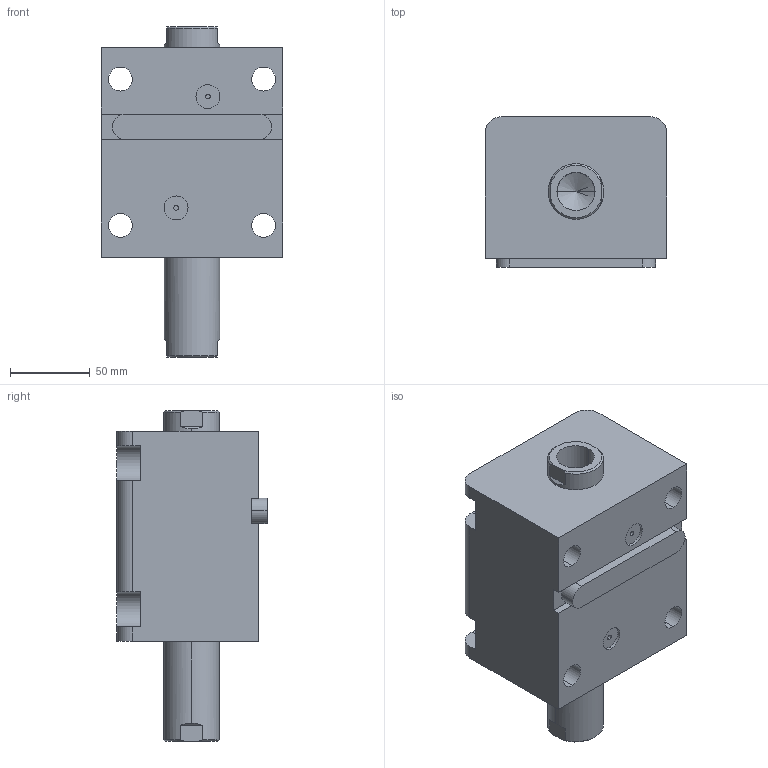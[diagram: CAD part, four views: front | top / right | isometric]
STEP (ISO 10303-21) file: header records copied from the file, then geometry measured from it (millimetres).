
FILE_DESCRIPTION (( 'STEP AP203' ), '1' );
FILE_NAME ('HTB-LWM63-50N.STEP', '2020-12-25T03:47:33', ( '微软用户' ), ( '微软中国' ), 'SwSTEP 2.0', 'SolidWorks 2012', '' );
FILE_SCHEMA (( 'CONFIG_CONTROL_DESIGN' ));
Length unit declared in the file: millimetre
Products named in the file (4): HTB-LWM63-50N; HTB-LWM63-瑩; HTB-LWM63-50N活塞杆; HTB-LWM63-50掛极
Assembly tree (3 placements, depth 2):
  HTB-LWM63-50N
    HTB-LWM63-50掛极
    HTB-LWM63-50N活塞杆
    HTB-LWM63-瑩
Bounding box: 114 x 94.5 x 208 mm (x, y, z)
Volume: 1191410.4 mm3; surface area: 153336.3 mm2
Topology: 3 solids, 3 shells, 105 faces, 261 edges, 168 vertices
Faces by surface type: cylinder 45, plane 44, torus 8, cone 8
Entity records: 3571 total; most frequent: CARTESIAN_POINT 592, DIRECTION 573, ORIENTED_EDGE 514, EDGE_CURVE 257, AXIS2_PLACEMENT_3D 221, VERTEX_POINT 168, VECTOR 131, LINE 131
